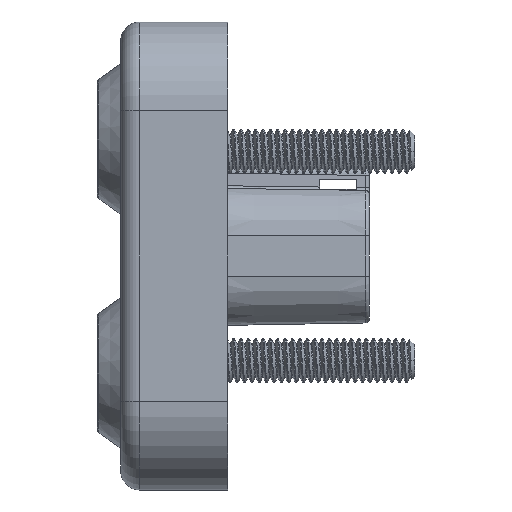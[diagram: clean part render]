
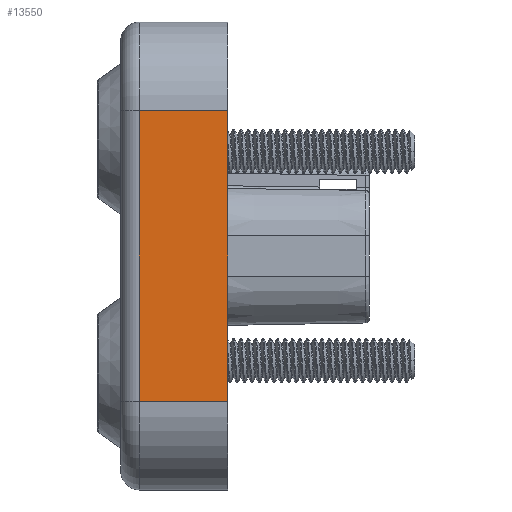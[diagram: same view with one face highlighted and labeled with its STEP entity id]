
A CAD part, left-side view. The second image highlights one B-rep face of the part: STEP entity #13550.
In plain terms, the highlighted planar face has unit normal (-1, 0, 0).
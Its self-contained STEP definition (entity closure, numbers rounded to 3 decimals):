
#1046 = EDGE_CURVE ( 'NONE', #3155, #21330, #57425, .T. ) ;
#3155 = VERTEX_POINT ( 'NONE', #80737 ) ;
#9434 = VECTOR ( 'NONE', #35474, 1000. ) ;
#11227 = EDGE_CURVE ( 'NONE', #41291, #3155, #58860, .T. ) ;
#13550 = ADVANCED_FACE ( 'NONE', ( #94973 ), #87204, .T. ) ;
#21330 = VERTEX_POINT ( 'NONE', #46190 ) ;
#26442 = CARTESIAN_POINT ( 'NONE',  ( -44.45, -14.542, -31.75 ) ) ;
#29940 = CARTESIAN_POINT ( 'NONE',  ( -44.45, -14.542, -19.685 ) ) ;
#33465 = CARTESIAN_POINT ( 'NONE',  ( -44.45, -4.763, -31.75 ) ) ;
#35474 = DIRECTION ( 'NONE',  ( 0., 0., -1. ) ) ;
#35780 = AXIS2_PLACEMENT_3D ( 'NONE', #33465, #107440, #97876 ) ;
#35803 = EDGE_LOOP ( 'NONE', ( #107051, #96362, #85514, #49937 ) ) ;
#36809 = EDGE_CURVE ( 'NONE', #76986, #21330, #116642, .T. ) ;
#41291 = VERTEX_POINT ( 'NONE', #46233 ) ;
#43730 = CARTESIAN_POINT ( 'NONE',  ( -44.45, -4.763, 19.685 ) ) ;
#46190 = CARTESIAN_POINT ( 'NONE',  ( -44.45, -14.542, -19.685 ) ) ;
#46233 = CARTESIAN_POINT ( 'NONE',  ( -44.45, -2.54, 19.685 ) ) ;
#49937 = ORIENTED_EDGE ( 'NONE', *, *, #36809, .F. ) ;
#50306 = VECTOR ( 'NONE', #56828, 1000. ) ;
#51456 = EDGE_CURVE ( 'NONE', #76986, #41291, #62797, .T. ) ;
#56828 = DIRECTION ( 'NONE',  ( 0., -1., 0. ) ) ;
#57425 = LINE ( 'NONE', #29940, #50306 ) ;
#58860 = LINE ( 'NONE', #86329, #65443 ) ;
#62797 = LINE ( 'NONE', #43730, #78356 ) ;
#65443 = VECTOR ( 'NONE', #69013, 1000. ) ;
#69013 = DIRECTION ( 'NONE',  ( 0., 0., -1. ) ) ;
#72920 = DIRECTION ( 'NONE',  ( 0., 1., 0. ) ) ;
#76986 = VERTEX_POINT ( 'NONE', #77248 ) ;
#77248 = CARTESIAN_POINT ( 'NONE',  ( -44.45, -14.542, 19.685 ) ) ;
#78356 = VECTOR ( 'NONE', #72920, 1000. ) ;
#80737 = CARTESIAN_POINT ( 'NONE',  ( -44.45, -2.54, -19.685 ) ) ;
#85514 = ORIENTED_EDGE ( 'NONE', *, *, #1046, .T. ) ;
#86329 = CARTESIAN_POINT ( 'NONE',  ( -44.45, -2.54, -31.75 ) ) ;
#87204 = PLANE ( 'NONE',  #35780 ) ;
#94973 = FACE_OUTER_BOUND ( 'NONE', #35803, .T. ) ;
#96362 = ORIENTED_EDGE ( 'NONE', *, *, #11227, .T. ) ;
#97876 = DIRECTION ( 'NONE',  ( 0., 1., 0. ) ) ;
#107051 = ORIENTED_EDGE ( 'NONE', *, *, #51456, .T. ) ;
#107440 = DIRECTION ( 'NONE',  ( -1., 0., 0. ) ) ;
#116642 = LINE ( 'NONE', #26442, #9434 ) ;
